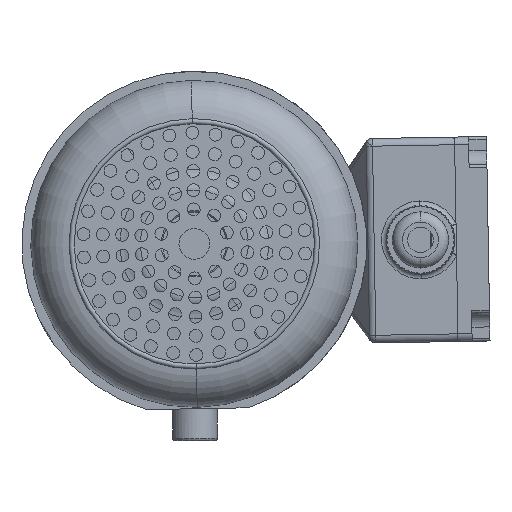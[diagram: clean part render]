
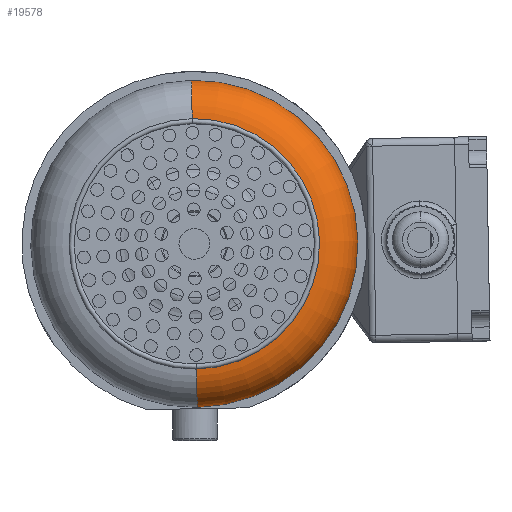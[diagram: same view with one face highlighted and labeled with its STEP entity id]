
A CAD part, front view. The second image highlights one B-rep face of the part: STEP entity #19578.
In plain terms, the highlighted toroidal (fillet/blend) face has major radius 48 mm and minor radius 16 mm.
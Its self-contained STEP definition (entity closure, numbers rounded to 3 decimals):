
#1966 = DIRECTION ( 'NONE',  ( 0., 0., -1. ) ) ;
#2156 = CARTESIAN_POINT ( 'NONE',  ( 49., 0., 40.969 ) ) ;
#2190 = ORIENTED_EDGE ( 'NONE', *, *, #87800, .F. ) ;
#5979 = AXIS2_PLACEMENT_3D ( 'NONE', #87620, #22181, #30336 ) ;
#6134 = CIRCLE ( 'NONE', #63593, 16. ) ;
#7963 = EDGE_CURVE ( 'NONE', #76271, #95924, #6134, .T. ) ;
#11553 = DIRECTION ( 'NONE',  ( 0., 0., -1. ) ) ;
#14385 = EDGE_CURVE ( 'NONE', #44287, #90334, #105847, .T. ) ;
#18579 = CARTESIAN_POINT ( 'NONE',  ( -64., 0., 25. ) ) ;
#18840 = CARTESIAN_POINT ( 'NONE',  ( 0., 0., 25. ) ) ;
#19578 = ADVANCED_FACE ( 'NONE', ( #101718 ), #33099, .T. ) ;
#22181 = DIRECTION ( 'NONE',  ( 0., 0., -1. ) ) ;
#29279 = ORIENTED_EDGE ( 'NONE', *, *, #14385, .T. ) ;
#30336 = DIRECTION ( 'NONE',  ( -1., 0., 0. ) ) ;
#33099 = TOROIDAL_SURFACE ( 'NONE', #55100, 48., 16. ) ;
#36143 = AXIS2_PLACEMENT_3D ( 'NONE', #50931, #94993, #69401 ) ;
#36879 = DIRECTION ( 'NONE',  ( 1., 0., 0. ) ) ;
#42474 = CIRCLE ( 'NONE', #47728, 49. ) ;
#44287 = VERTEX_POINT ( 'NONE', #2156 ) ;
#45619 = CARTESIAN_POINT ( 'NONE',  ( 0., 0., 40.969 ) ) ;
#45985 = CIRCLE ( 'NONE', #5979, 64. ) ;
#47728 = AXIS2_PLACEMENT_3D ( 'NONE', #45619, #47785, #36879 ) ;
#47785 = DIRECTION ( 'NONE',  ( 0., 0., 1. ) ) ;
#48633 = EDGE_LOOP ( 'NONE', ( #2190, #29279, #75767, #58961 ) ) ;
#50033 = CARTESIAN_POINT ( 'NONE',  ( -49., 0., 40.969 ) ) ;
#50931 = CARTESIAN_POINT ( 'NONE',  ( 48., 0., 25. ) ) ;
#55100 = AXIS2_PLACEMENT_3D ( 'NONE', #18840, #1966, #95133 ) ;
#58961 = ORIENTED_EDGE ( 'NONE', *, *, #7963, .F. ) ;
#63593 = AXIS2_PLACEMENT_3D ( 'NONE', #84642, #76485, #11553 ) ;
#69401 = DIRECTION ( 'NONE',  ( -1., 0., 0. ) ) ;
#75767 = ORIENTED_EDGE ( 'NONE', *, *, #89977, .F. ) ;
#76271 = VERTEX_POINT ( 'NONE', #50033 ) ;
#76485 = DIRECTION ( 'NONE',  ( 0., -1., 0. ) ) ;
#84642 = CARTESIAN_POINT ( 'NONE',  ( -48., 0., 25. ) ) ;
#87620 = CARTESIAN_POINT ( 'NONE',  ( 0., 0., 25. ) ) ;
#87800 = EDGE_CURVE ( 'NONE', #44287, #76271, #42474, .T. ) ;
#89977 = EDGE_CURVE ( 'NONE', #95924, #90334, #45985, .T. ) ;
#90334 = VERTEX_POINT ( 'NONE', #97296 ) ;
#94993 = DIRECTION ( 'NONE',  ( 0., 1., 0. ) ) ;
#95133 = DIRECTION ( 'NONE',  ( -1., 0., 0. ) ) ;
#95924 = VERTEX_POINT ( 'NONE', #18579 ) ;
#97296 = CARTESIAN_POINT ( 'NONE',  ( 64., 0., 25. ) ) ;
#101718 = FACE_OUTER_BOUND ( 'NONE', #48633, .T. ) ;
#105847 = CIRCLE ( 'NONE', #36143, 16. ) ;
